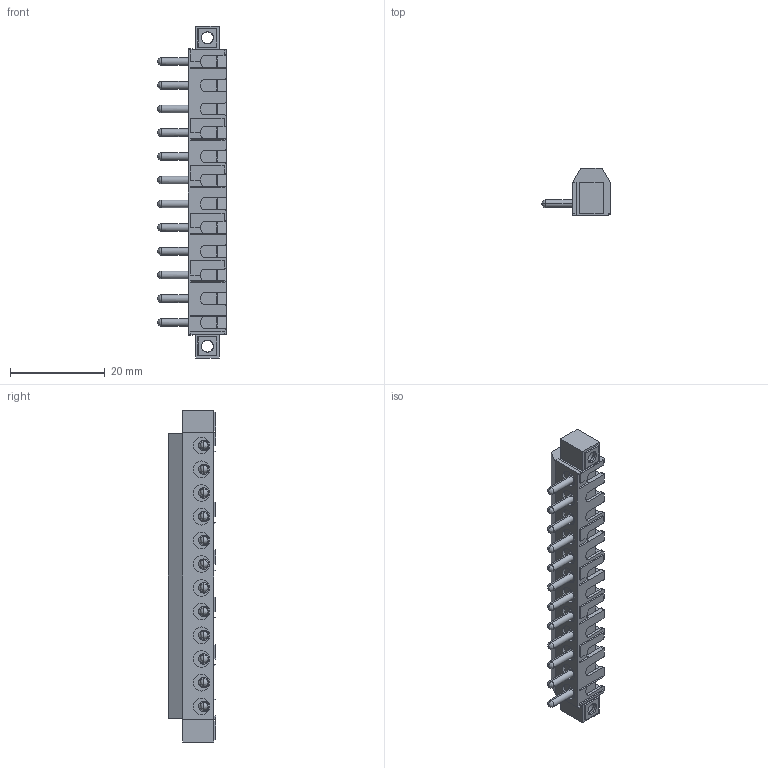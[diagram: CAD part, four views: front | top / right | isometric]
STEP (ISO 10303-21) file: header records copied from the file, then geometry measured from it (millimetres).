
FILE_DESCRIPTION (( 'STEP AP214' ), '1' );
FILE_NAME ('951-B-SV-12.STEP', '2008-04-17T03:44:28', ( ' ' ), ( '' ), 'SwSTEP 2.0', 'SolidWorks 2007', '' );
FILE_SCHEMA (( 'AUTOMOTIVE_DESIGN' ));
Length unit declared in the file: millimetre
Products named in the file (1): 951-B-SV-12
Bounding box: 14.5 x 10 x 70 mm (x, y, z)
Volume: 3895.7 mm3; surface area: 3992.7 mm2
Topology: 1 solids, 1 shells, 839 faces, 2480 edges, 1613 vertices
Faces by surface type: plane 542, cylinder 165, bspline 100, cone 32
Entity records: 32411 total; most frequent: CARTESIAN_POINT 10909, ORIENTED_EDGE 4912, DIRECTION 3998, EDGE_CURVE 2456, VERTEX_POINT 1613, VECTOR 1490, LINE 1490, AXIS2_PLACEMENT_3D 1254
